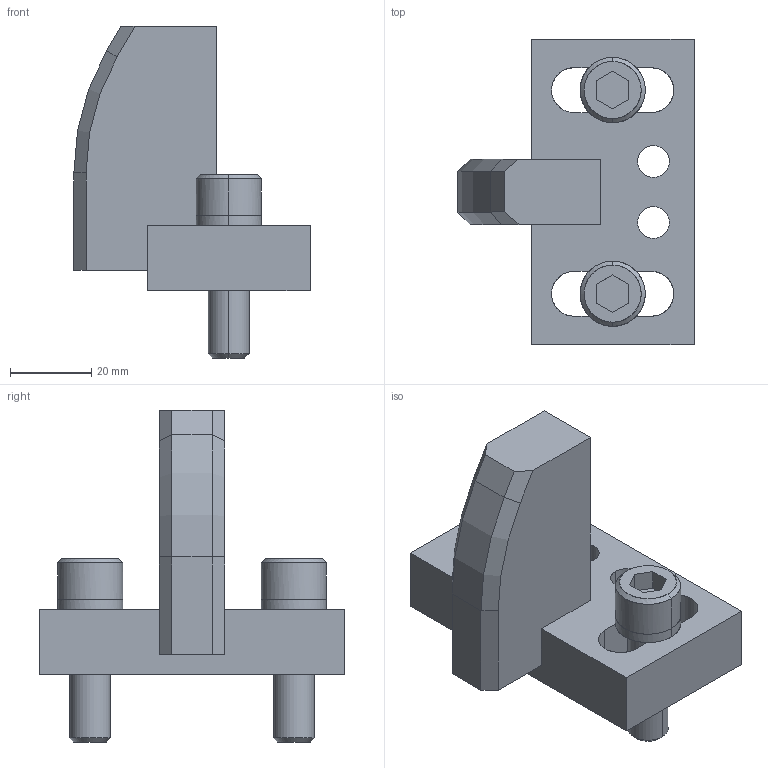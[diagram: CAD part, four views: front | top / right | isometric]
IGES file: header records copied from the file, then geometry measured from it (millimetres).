
Global section: file name: E:\UnigraphicsGraphicData\MISUMI_PRESS-PARTS\IGES\3d_ngwa-65-20-s35-m10_01571_r00.igs; native system: NX V5.0; preprocessor: UGS NX IGES V5.0; author: MISUMI; date: 20110105.162109; units: millimetre
Bounding box: 58 x 75 x 81.5 mm (x, y, z)
Surface area: 23809.5 mm2 (no closed solid volume)
Topology: 0 solids, 0 shells, 104 faces, 666 edges, 666 vertices
Faces by surface type: bspline 104
